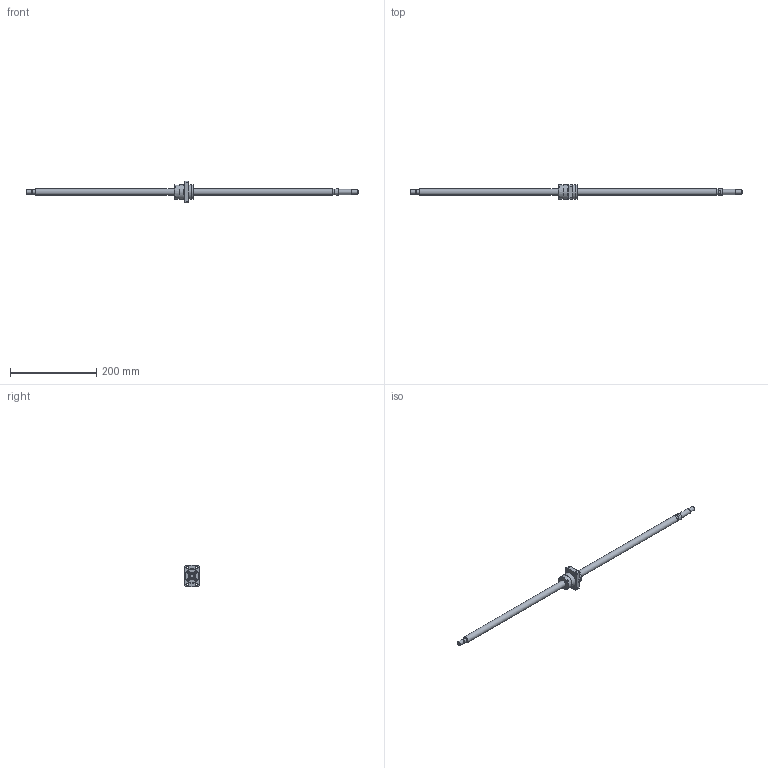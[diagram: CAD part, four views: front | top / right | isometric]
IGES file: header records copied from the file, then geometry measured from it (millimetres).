
Start section: Data from Parasolid IGES Translator 26.0.171, Copyright(c) 2006 Siemens PLM Software. All Rights Reserved.
Global section: file name: BNK1510-5.6G0+771LC5Y(366.50).igs; native system: By Siemens PLM Incorporated; preprocessor: XPlus GENERIC/IGES 26.0.171; author: Noname; organization: Noname; date: 20240709.092322; units: millimetre
Bounding box: 771 x 34 x 50 mm (x, y, z)
Surface area: 47621.2 mm2 (no closed solid volume)
Topology: 0 solids, 0 shells, 140 faces, 649 edges, 589 vertices
Faces by surface type: extrusion 76, revolution 64
